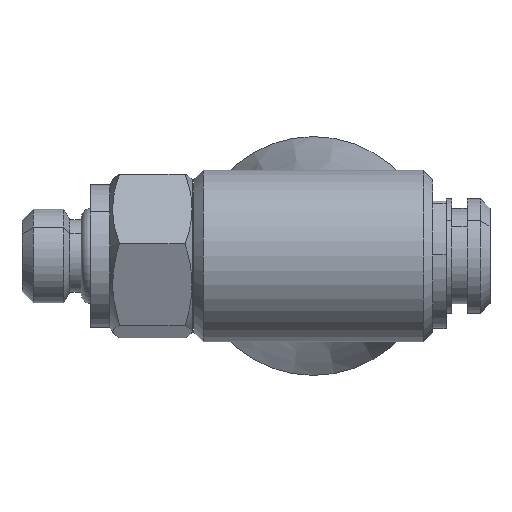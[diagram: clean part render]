
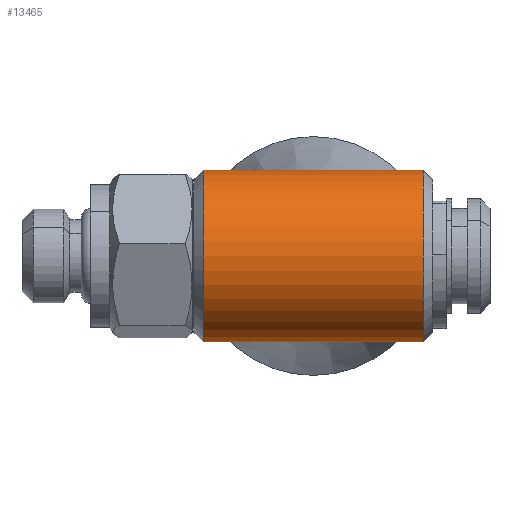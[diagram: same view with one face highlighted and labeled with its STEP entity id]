
A CAD part, left-side view. The second image highlights one B-rep face of the part: STEP entity #13465.
In plain terms, the highlighted cylindrical face has radius 4.5 mm (diameter 9 mm), a partial arc.
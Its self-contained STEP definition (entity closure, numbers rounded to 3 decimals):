
#1085 = FACE_OUTER_BOUND ( 'NONE', #11237, .T. ) ;
#1093 = CYLINDRICAL_SURFACE ( 'NONE', #3708, 4.5 ) ;
#3708 = AXIS2_PLACEMENT_3D ( 'NONE', #10943, #10944, #10952 ) ;
#4528 = ORIENTED_EDGE ( 'NONE', *, *, #9993, .F. ) ;
#4529 = ORIENTED_EDGE ( 'NONE', *, *, #8568, .T. ) ;
#4530 = ORIENTED_EDGE ( 'NONE', *, *, #9995, .T. ) ;
#4531 = ORIENTED_EDGE ( 'NONE', *, *, #8569, .F. ) ;
#4532 = ORIENTED_EDGE ( 'NONE', *, *, #9997, .T. ) ;
#4533 = ORIENTED_EDGE ( 'NONE', *, *, #8570, .F. ) ;
#4534 = ORIENTED_EDGE ( 'NONE', *, *, #9996, .F. ) ;
#4535 = ORIENTED_EDGE ( 'NONE', *, *, #9987, .F. ) ;
#5107 = VERTEX_POINT ( 'NONE', #14829 ) ;
#5117 = VERTEX_POINT ( 'NONE', #14848 ) ;
#5120 = VERTEX_POINT ( 'NONE', #14853 ) ;
#5121 = VERTEX_POINT ( 'NONE', #14855 ) ;
#5122 = VERTEX_POINT ( 'NONE', #14857 ) ;
#5123 = VERTEX_POINT ( 'NONE', #14859 ) ;
#5124 = VERTEX_POINT ( 'NONE', #14861 ) ;
#5125 = VERTEX_POINT ( 'NONE', #14863 ) ;
#6642 = CARTESIAN_POINT ( 'NONE',  ( 0., 0., -4.5 ) ) ;
#6643 = DIRECTION ( 'NONE',  ( 0., -1., 0. ) ) ;
#6644 = CARTESIAN_POINT ( 'NONE',  ( 0., 0., 4.5 ) ) ;
#6646 = DIRECTION ( 'NONE',  ( 0., -1., 0. ) ) ;
#6647 = DIRECTION ( 'NONE',  ( 0., -1., 0. ) ) ;
#7656 = B_SPLINE_CURVE_WITH_KNOTS ( 'NONE', 3,
 ( #12381, #12388, #12392, #12393 ),
 .UNSPECIFIED., .F., .F.,
 ( 4, 4 ),
 ( 0., 1. ),
 .UNSPECIFIED. ) ;
#7666 = B_SPLINE_CURVE_WITH_KNOTS ( 'NONE', 3,
 ( #12678, #12677, #12701, #12702 ),
 .UNSPECIFIED., .F., .F.,
 ( 4, 4 ),
 ( 0., 1. ),
 .UNSPECIFIED. ) ;
#8279 = CIRCLE ( 'NONE', #12790, 4.5 ) ;
#8281 = CIRCLE ( 'NONE', #12791, 4.5 ) ;
#8568 = EDGE_CURVE ( 'NONE', #5122, #5123, #8279, .T. ) ;
#8569 = EDGE_CURVE ( 'NONE', #5117, #5125, #7656, .T. ) ;
#8570 = EDGE_CURVE ( 'NONE', #5120, #5121, #8281, .T. ) ;
#9987 = EDGE_CURVE ( 'NONE', #5124, #5107, #7666, .T. ) ;
#9993 = EDGE_CURVE ( 'NONE', #5122, #5124, #14243, .T. ) ;
#9995 = EDGE_CURVE ( 'NONE', #5123, #5125, #14251, .T. ) ;
#9996 = EDGE_CURVE ( 'NONE', #5107, #5120, #14249, .T. ) ;
#9997 = EDGE_CURVE ( 'NONE', #5117, #5121, #14248, .T. ) ;
#10943 = CARTESIAN_POINT ( 'NONE',  ( 0., 0., 0. ) ) ;
#10944 = DIRECTION ( 'NONE',  ( 0., -1., 0. ) ) ;
#10952 = DIRECTION ( 'NONE',  ( 0., 0., -1. ) ) ;
#11237 = EDGE_LOOP ( 'NONE', ( #4528, #4529, #4530, #4531, #4532, #4533, #4534, #4535 ) ) ;
#12381 = CARTESIAN_POINT ( 'NONE',  ( 0., 7.044, -4.5 ) ) ;
#12388 = CARTESIAN_POINT ( 'NONE',  ( 0., 7.181, -4.506 ) ) ;
#12389 = CARTESIAN_POINT ( 'NONE',  ( 0., 13., 0. ) ) ;
#12390 = DIRECTION ( 'NONE',  ( 0., -1., 0. ) ) ;
#12391 = DIRECTION ( 'NONE',  ( 0., 0., -1. ) ) ;
#12392 = CARTESIAN_POINT ( 'NONE',  ( 0., 7.319, -4.506 ) ) ;
#12393 = CARTESIAN_POINT ( 'NONE',  ( 0., 7.456, -4.5 ) ) ;
#12394 = CARTESIAN_POINT ( 'NONE',  ( 0., 1.5, 0. ) ) ;
#12395 = DIRECTION ( 'NONE',  ( 0., -1., 0. ) ) ;
#12396 = DIRECTION ( 'NONE',  ( 0., 0., -1. ) ) ;
#12677 = CARTESIAN_POINT ( 'NONE',  ( 0., 7.319, 4.506 ) ) ;
#12678 = CARTESIAN_POINT ( 'NONE',  ( 0., 7.456, 4.5 ) ) ;
#12701 = CARTESIAN_POINT ( 'NONE',  ( 0., 7.181, 4.506 ) ) ;
#12702 = CARTESIAN_POINT ( 'NONE',  ( 0., 7.044, 4.5 ) ) ;
#12708 = DIRECTION ( 'NONE',  ( 0., -1., 0. ) ) ;
#12714 = CARTESIAN_POINT ( 'NONE',  ( 0., 0., 4.5 ) ) ;
#12718 = CARTESIAN_POINT ( 'NONE',  ( 0., 0., -4.5 ) ) ;
#12790 = AXIS2_PLACEMENT_3D ( 'NONE', #12389, #12390, #12391 ) ;
#12791 = AXIS2_PLACEMENT_3D ( 'NONE', #12394, #12395, #12396 ) ;
#13465 = ADVANCED_FACE ( 'NONE', ( #1085 ), #1093, .T. ) ;
#14243 = LINE ( 'NONE', #12714, #14250 ) ;
#14248 = LINE ( 'NONE', #12718, #14256 ) ;
#14249 = LINE ( 'NONE', #6644, #14254 ) ;
#14250 = VECTOR ( 'NONE', #12708, 1000. ) ;
#14251 = LINE ( 'NONE', #6642, #14252 ) ;
#14252 = VECTOR ( 'NONE', #6643, 1000. ) ;
#14254 = VECTOR ( 'NONE', #6646, 1000. ) ;
#14256 = VECTOR ( 'NONE', #6647, 1000. ) ;
#14829 = CARTESIAN_POINT ( 'NONE',  ( 0., 7.044, 4.5 ) ) ;
#14848 = CARTESIAN_POINT ( 'NONE',  ( 0., 7.044, -4.5 ) ) ;
#14853 = CARTESIAN_POINT ( 'NONE',  ( 0., 1.5, 4.5 ) ) ;
#14855 = CARTESIAN_POINT ( 'NONE',  ( 0., 1.5, -4.5 ) ) ;
#14857 = CARTESIAN_POINT ( 'NONE',  ( 0., 13., 4.5 ) ) ;
#14859 = CARTESIAN_POINT ( 'NONE',  ( 0., 13., -4.5 ) ) ;
#14861 = CARTESIAN_POINT ( 'NONE',  ( 0., 7.456, 4.5 ) ) ;
#14863 = CARTESIAN_POINT ( 'NONE',  ( 0., 7.456, -4.5 ) ) ;
